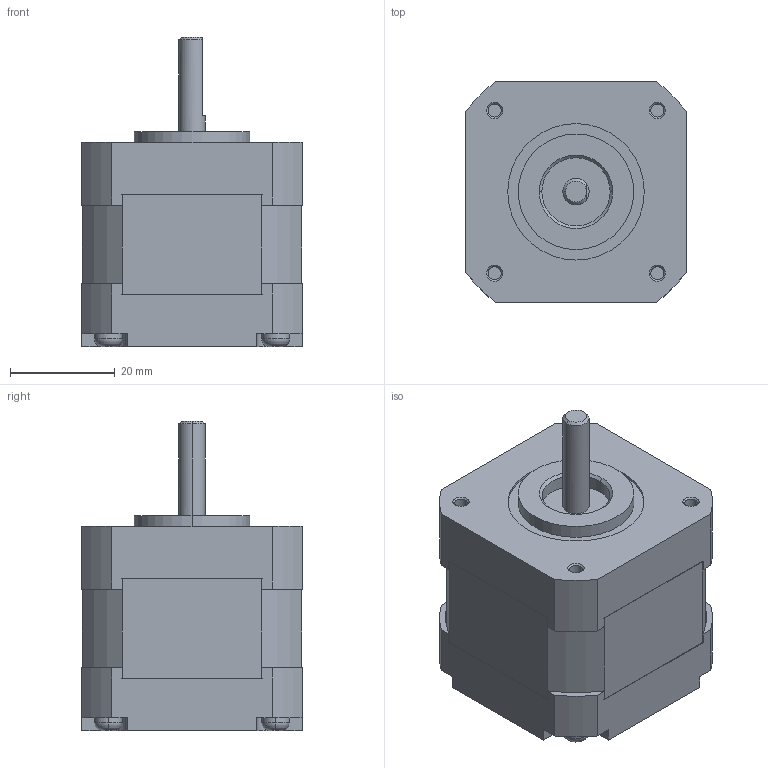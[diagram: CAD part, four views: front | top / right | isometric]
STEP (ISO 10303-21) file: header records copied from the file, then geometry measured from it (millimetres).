
FILE_DESCRIPTION (( 'STEP AP214' ), '1' );
FILE_NAME ('TS3667N2.STEP', '2011-09-15T09:04:02', ( '' ), ( '' ), 'SwSTEP 2.0', 'SolidWorks 2010', '' );
FILE_SCHEMA (( 'AUTOMOTIVE_DESIGN' ));
Length unit declared in the file: millimetre
Products named in the file (1): TS3667N2
Bounding box: 42 x 42 x 59 mm (x, y, z)
Volume: 65513.5 mm3; surface area: 14303 mm2
Topology: 2 solids, 2 shells, 188 faces, 496 edges, 322 vertices
Faces by surface type: plane 96, cylinder 70, cone 14, torus 8
Entity records: 6194 total; most frequent: CARTESIAN_POINT 1275, DIRECTION 1024, ORIENTED_EDGE 992, EDGE_CURVE 496, AXIS2_PLACEMENT_3D 373, VERTEX_POINT 322, LINE 278, VECTOR 278
